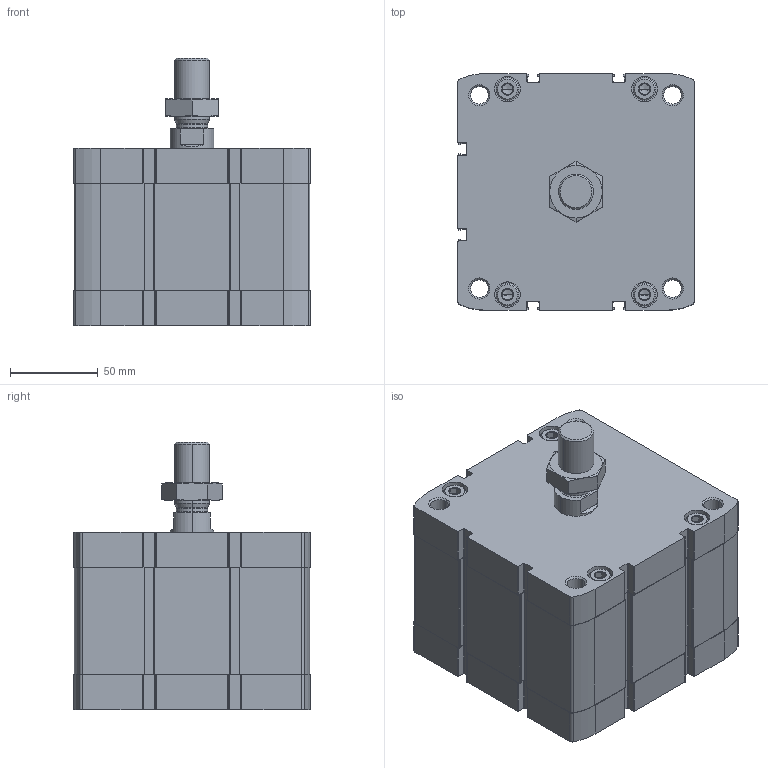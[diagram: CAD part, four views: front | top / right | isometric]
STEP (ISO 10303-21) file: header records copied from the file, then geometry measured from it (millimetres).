
FILE_DESCRIPTION (( 'STEP AP203' ), '1' );
FILE_NAME ('CCN125-20M.STEP', '2020-06-05T19:21:24', ( '' ), ( '' ), 'SwSTEP 2.0', 'SolidWorks 2019', '' );
FILE_SCHEMA (( 'CONFIG_CONTROL_DESIGN' ));
Length unit declared in the file: millimetre
Products named in the file (1): CCN125-20M
Bounding box: 134.6 x 134.6 x 152 mm (x, y, z)
Volume: 1533832.9 mm3; surface area: 208770.6 mm2
Topology: 3 solids, 3 shells, 555 faces, 1412 edges, 886 vertices
Faces by surface type: plane 275, cylinder 196, cone 80, torus 4
Entity records: 18163 total; most frequent: CARTESIAN_POINT 4452, DIRECTION 2966, ORIENTED_EDGE 2792, EDGE_CURVE 1396, AXIS2_PLACEMENT_3D 1092, VERTEX_POINT 886, VECTOR 782, LINE 782
